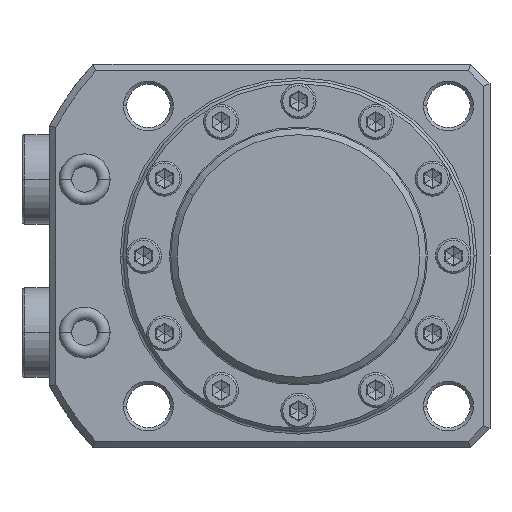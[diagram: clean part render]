
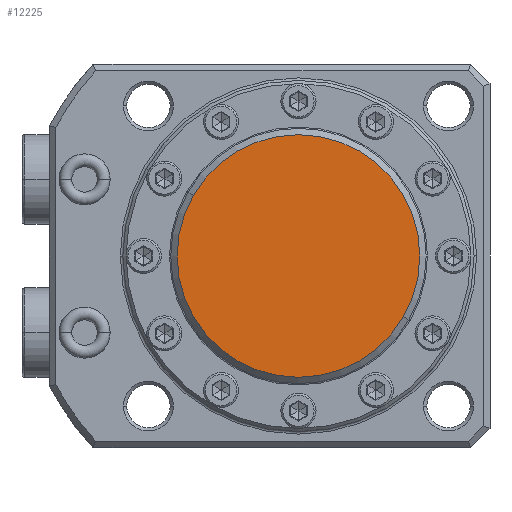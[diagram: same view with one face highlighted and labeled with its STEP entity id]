
A CAD part, front view. The second image highlights one B-rep face of the part: STEP entity #12225.
In plain terms, the highlighted planar face has unit normal (0, -1, 0) as drawn and (0, 0, 1) by its records, which use the part's own axes.
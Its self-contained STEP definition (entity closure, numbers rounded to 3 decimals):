
#11092=CARTESIAN_POINT('',(0.,0.,0.));
#11093=DIRECTION('',(0.,0.,1.));
#11094=DIRECTION('',(-1.,0.,0.));
#11095=AXIS2_PLACEMENT_3D('',#11092,#11093,#11094);
#11097=CARTESIAN_POINT('',(0.,0.,0.));
#11098=DIRECTION('',(0.,0.,1.));
#11099=DIRECTION('',(1.,0.,0.));
#11100=AXIS2_PLACEMENT_3D('',#11097,#11098,#11099);
#11990=CARTESIAN_POINT('',(-19.,0.,0.));
#11991=CARTESIAN_POINT('',(19.,0.,0.));
#11992=VERTEX_POINT('',#11990);
#11993=VERTEX_POINT('',#11991);
#12214=CARTESIAN_POINT('',(0.,0.,0.));
#12215=DIRECTION('',(0.,0.,1.));
#12216=DIRECTION('',(-1.,0.,0.));
#12217=AXIS2_PLACEMENT_3D('',#12214,#12215,#12216);
#12218=PLANE('',#12217);
#12220=ORIENTED_EDGE('',*,*,#12219,.F.);
#12222=ORIENTED_EDGE('',*,*,#12221,.F.);
#12223=EDGE_LOOP('',(#12220,#12222));
#12224=FACE_OUTER_BOUND('',#12223,.F.);
#12225=ADVANCED_FACE('',(#12224),#12218,.T.);
#11096=CIRCLE('',#11095,19.);
#11101=CIRCLE('',#11100,19.);
#12219=EDGE_CURVE('',#11992,#11993,#11096,.T.);
#12221=EDGE_CURVE('',#11993,#11992,#11101,.T.);
